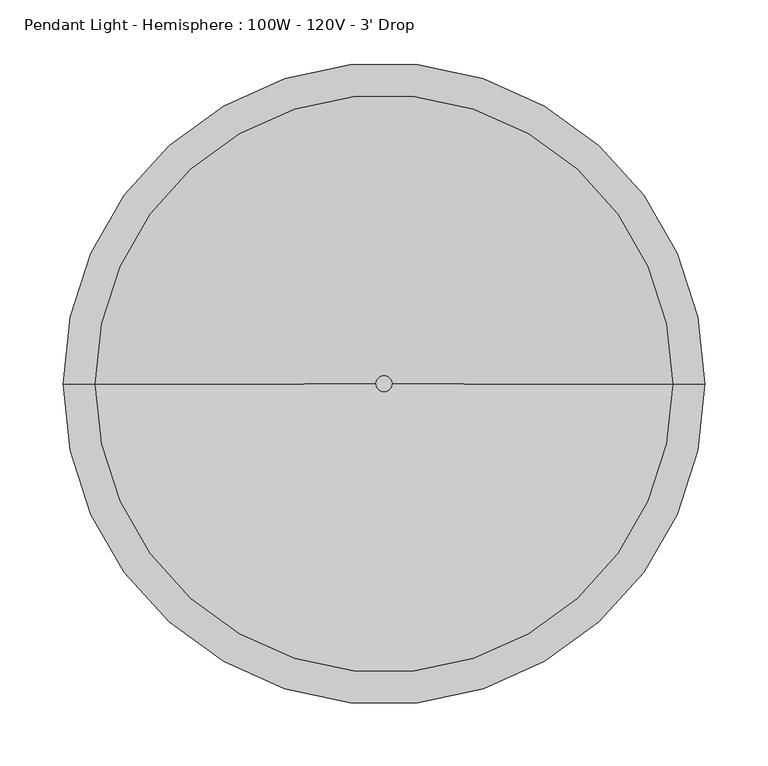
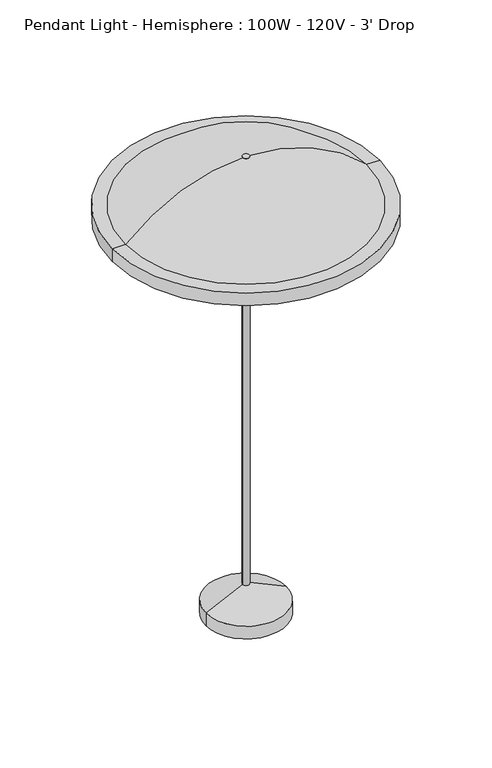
"""IFC4 building model written with IfcOpenShell, lengths in millimetres: light fixture geometry, Pendant Light - Hemisphere : 100W - 120V - 3' Drop."""

from ifc_helpers import new_model, si_unit, point, frame, origin, origin_with_axes, place, context, project, spatial, polyline, circle_curve, ellipse_curve, trimmed, source, transform, mapped, element, save
from ifc_brep_helpers import plane_surface, cylinder_surface, revolved_surface, advanced_brep


def pendant_light_hemisphere_100w_120v_3_drop_98367d5d(model_context):
    return source(origin(), model_context, "Body", "AdvancedBrep", [
        advanced_brep(
        [(-6.35, 0.0, 914.4), (6.35, 0.0, 914.4), (-76.2, 0.0, 0.0), (76.2, 0.0, 0.0), (-6.35, 0.0, 58.1421875), (6.35, 0.0, 58.1421875), (76.2, 0.0, 25.4), (-76.2, 0.0, 25.4)],
        [
            (0, 1, circle_curve(frame((0.0, 0.0, 914.4), z_axis=(0.0, 0.0, 1.0), x_axis=(1.0, 0.0, 0.0)), 6.35)),
            (1, 0, circle_curve(frame((0.0, 0.0, 914.4), z_axis=(0.0, 0.0, 1.0), x_axis=(1.0, 0.0, 0.0)), 6.35)),
            (2, 3, circle_curve(frame((0.0, 0.0, 0.0), z_axis=(0.0, 0.0, -1.0), x_axis=(-1.0, 0.0, 0.0)), 76.2)),
            (3, 2, circle_curve(frame((0.0, 0.0, 0.0), z_axis=(0.0, 0.0, -1.0), x_axis=(-1.0, 0.0, 0.0)), 76.2)),
            (0, 4),
            (4, 5, circle_curve(frame((0.0, 0.0, 58.1421875), z_axis=(0.0, 0.0, 1.0), x_axis=(1.0, 0.0, 0.0)), 6.35)),
            (5, 1),
            (5, 4, circle_curve(frame((0.0, 0.0, 58.1421875), z_axis=(0.0, 0.0, 1.0), x_axis=(1.0, 0.0, 0.0)), 6.35)),
            (6, 7, circle_curve(frame((0.0, 0.0, 25.4), z_axis=(0.0, 0.0, 1.0), x_axis=(-1.0, 0.0, 0.0)), 76.2)),
            (7, 4),
            (5, 6),
            (7, 6, circle_curve(frame((0.0, 0.0, 25.4), z_axis=(0.0, 0.0, 1.0), x_axis=(-1.0, 0.0, 0.0)), 76.2)),
            (2, 7),
            (6, 3),
        ],
        [
            plane_surface(frame((6.35, 0.0, 914.4), z_axis=(0.0, 0.0, 1.0), x_axis=(0.0, 1.0, 0.0))),
            plane_surface(frame((6.35, 0.0, 0.0), z_axis=(0.0, 0.0, -1.0), x_axis=(0.0, -1.0, 0.0))),
            cylinder_surface(origin_with_axes(), 6.35),
            revolved_surface(polyline([(0.0, 0.0, 61.11875), (-76.2, 0.0, 25.4)]), (0.0, 0.0, -44.5149987), (0.0, 0.0, -1.0)),
            cylinder_surface(frame((0.0, 0.0, -44.5149987), z_axis=(0.0, 0.0, -1.0), x_axis=(-1.0, 0.0, 0.0)), 76.2),
        ],
        [
            (0, [[1, 2]]),
            (1, [[3, 4]]),
            (2, [[-1, 5, 6, 7]]),
            (2, [[-2, -7, 8, -5]]),
            (3, [[9, 10, -8, 11]]),
            (3, [[12, -11, -6, -10]]),
            (4, [[-3, 13, -9, 14]]),
            (4, [[-4, -14, -12, -13]]),
        ],
    ),
        advanced_brep(
        [(218.28125, 0.0, 792.1625), (-218.28125, 0.0, 792.1625), (-254.0, 0.0, 792.1625), (254.0, 0.0, 792.1625), (0.0, 0.0, 889.0), (228.6, 0.0, 817.5625), (-228.6, 0.0, 817.5625), (0.0, 0.0, 914.4), (254.0, 0.0, 817.5625), (-254.0, 0.0, 817.5625)],
        [
            (0, 1, circle_curve(frame((0.0, 0.0, 792.1625), z_axis=(0.0, 0.0, 1.0), x_axis=(-1.0, 0.0, 0.0)), 218.28125)),
            (1, 2),
            (2, 3, circle_curve(frame((0.0, 0.0, 792.1625), z_axis=(0.0, 0.0, -1.0), x_axis=(-1.0, 0.0, 0.0)), 254.0)),
            (3, 0),
            (1, 0, circle_curve(frame((0.0, 0.0, 792.1625), z_axis=(0.0, 0.0, 1.0), x_axis=(-1.0, 0.0, 0.0)), 218.28125)),
            (3, 2, circle_curve(frame((0.0, 0.0, 792.1625), z_axis=(0.0, 0.0, -1.0), x_axis=(-1.0, 0.0, 0.0)), 254.0)),
            (4, 1, circle_curve(frame((7.2905558, 0.0, 578.1339163), z_axis=(0.0, -1.0, 0.0), x_axis=(1.0, 0.0, 0.0)), 310.9515625)),
            (0, 4, circle_curve(frame((-7.2905558, 0.0, 578.1339163), z_axis=(0.0, -1.0, 0.0), x_axis=(-1.0, 0.0, 0.0)), 310.9515625)),
            (5, 6, circle_curve(frame((0.0, 0.0, 817.5625), z_axis=(0.0, 0.0, 1.0), x_axis=(-1.0, 0.0, 0.0)), 228.6)),
            (6, 7, circle_curve(frame((6.0510717, 0.0, 581.873802), z_axis=(0.0, 1.0, 0.0), x_axis=(1.0, 0.0, 0.0)), 332.58125)),
            (7, 5, circle_curve(frame((-6.0510717, 0.0, 581.873802), z_axis=(0.0, 1.0, 0.0), x_axis=(-1.0, 0.0, 0.0)), 332.58125)),
            (6, 5, circle_curve(frame((0.0, 0.0, 817.5625), z_axis=(0.0, 0.0, 1.0), x_axis=(-1.0, 0.0, 0.0)), 228.6)),
            (8, 9, circle_curve(frame((0.0, 0.0, 817.5625), z_axis=(0.0, 0.0, 1.0), x_axis=(-1.0, 0.0, 0.0)), 254.0)),
            (9, 6),
            (5, 8),
            (9, 8, circle_curve(frame((0.0, 0.0, 817.5625), z_axis=(0.0, 0.0, 1.0), x_axis=(-1.0, 0.0, 0.0)), 254.0)),
            (2, 9),
            (8, 3),
        ],
        [
            plane_surface(frame((0.0, 0.0, 792.1625), z_axis=(0.0, 0.0, -1.0), x_axis=(-1.0, 0.0, 0.0))),
            revolved_surface(trimmed(ellipse_curve(frame((7.2905558, 0.0, 578.1339163), z_axis=(0.0, 1.0, 0.0), x_axis=(1.0, 0.0, 0.0)), 310.9515625, 310.9515625), [point((-218.28125, 0.0, 792.1625))], [point((0.0, 0.0, 889.0))], True, "CARTESIAN"), (0.0, 0.0, 865.3377177), (0.0, 0.0, -1.0)),
            revolved_surface(trimmed(ellipse_curve(frame((6.0510717, 0.0, 581.873802), z_axis=(0.0, -1.0, 0.0), x_axis=(1.0, 0.0, 0.0)), 332.58125, 332.58125), [point((0.0, 0.0, 914.4))], [point((-228.6, 0.0, 817.5625))], True, "CARTESIAN"), (0.0, 0.0, 865.3377177), (0.0, 0.0, -1.0)),
            plane_surface(frame((0.0, 0.0, 817.5625), z_axis=(0.0, 0.0, 1.0), x_axis=(-1.0, 0.0, 0.0))),
            cylinder_surface(frame((0.0, 0.0, 865.3377177), z_axis=(0.0, 0.0, -1.0), x_axis=(-1.0, 0.0, 0.0)), 254.0),
        ],
        [
            (0, [[1, 2, 3, 4]]),
            (0, [[5, -4, 6, -2]]),
            (1, [[7, -1, 8]]),
            (1, [[-8, -5, -7]]),
            (2, [[9, 10, 11]]),
            (2, [[12, -11, -10]]),
            (3, [[13, 14, -9, 15]]),
            (3, [[16, -15, -12, -14]]),
            (4, [[-3, 17, -13, 18]]),
            (4, [[-6, -18, -16, -17]]),
        ],
    ),
    ])


if __name__ == "__main__":
    model = new_model("IFC4")
    model_context = context("Model", 3, world=origin())
    ifc_project = project(units=[si_unit("LENGTHUNIT", "METRE", prefix="MILLI")], contexts=[model_context])
    site = spatial("IfcSite", under=ifc_project)
    building = spatial("IfcBuilding", under=site)
    placement = place(None, origin())
    pendant_light_hemisphere_100w_120v_3_drop_shape = pendant_light_hemisphere_100w_120v_3_drop_98367d5d(model_context)
    element("IfcLightFixture", 1, ObjectType="Pendant Light - Hemisphere : 100W - 120V - 3' Drop", at=placement, inside=building, context=model_context, shape_type="MappedRepresentation", body=[
        mapped(pendant_light_hemisphere_100w_120v_3_drop_shape, transform((0.0, 0.0, 0.0), x_axis=(1.0, 0.0, 0.0), y_axis=(0.0, 1.0, 0.0), z_axis=(0.0, 0.0, 1.0))),
    ])
    save(model, "model.ifc")
